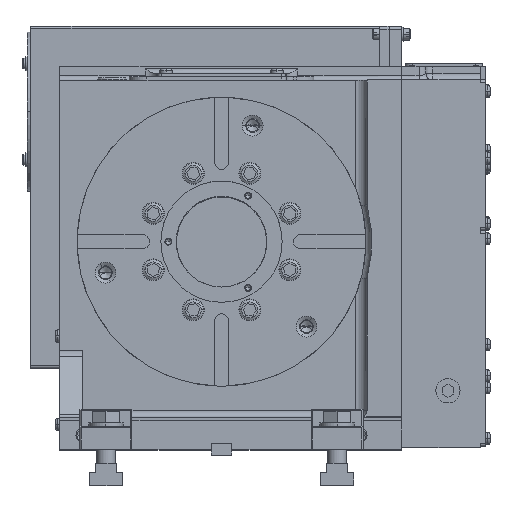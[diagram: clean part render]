
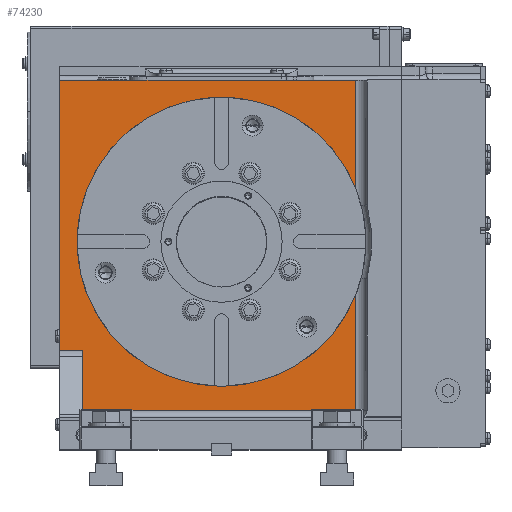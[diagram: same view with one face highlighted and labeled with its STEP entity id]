
A CAD part, top view. The second image highlights one B-rep face of the part: STEP entity #74230.
In plain terms, the highlighted planar face has unit normal (0, 0, 1) as drawn and (1, 0, 0) by its records, which use the part's own axes.
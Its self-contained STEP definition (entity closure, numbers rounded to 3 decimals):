
#1129 = VECTOR ( 'NONE', #110871, 1000. ) ;
#1500 = VECTOR ( 'NONE', #113606, 1000. ) ;
#4699 = EDGE_CURVE ( 'NONE', #69736, #19723, #97223, .T. ) ;
#5140 = CARTESIAN_POINT ( 'NONE',  ( 158., -146., -116. ) ) ;
#8170 = EDGE_CURVE ( 'NONE', #100000, #44124, #88858, .T. ) ;
#9696 = VECTOR ( 'NONE', #59174, 1000. ) ;
#10468 = EDGE_LOOP ( 'NONE', ( #62094, #57874 ) ) ;
#11766 = CARTESIAN_POINT ( 'NONE',  ( 158., -146., -116. ) ) ;
#12266 = CARTESIAN_POINT ( 'NONE',  ( 158., 0., 52.5 ) ) ;
#18388 = ORIENTED_EDGE ( 'NONE', *, *, #72162, .T. ) ;
#18440 = EDGE_CURVE ( 'NONE', #44124, #100000, #23325, .T. ) ;
#19105 = CARTESIAN_POINT ( 'NONE',  ( 158., -152., 120. ) ) ;
#19281 = DIRECTION ( 'NONE',  ( 0., 1., 0. ) ) ;
#19723 = VERTEX_POINT ( 'NONE', #105390 ) ;
#21317 = VERTEX_POINT ( 'NONE', #27211 ) ;
#21387 = FACE_OUTER_BOUND ( 'NONE', #30451, .T. ) ;
#21388 = CARTESIAN_POINT ( 'NONE',  ( 158., 0., 0. ) ) ;
#21521 = VERTEX_POINT ( 'NONE', #66740 ) ;
#21757 = VECTOR ( 'NONE', #19281, 1000. ) ;
#23325 = CIRCLE ( 'NONE', #99737, 52.5 ) ;
#26008 = VECTOR ( 'NONE', #37775, 1000. ) ;
#27211 = CARTESIAN_POINT ( 'NONE',  ( 158., 140., 140. ) ) ;
#28590 = ORIENTED_EDGE ( 'NONE', *, *, #78858, .F. ) ;
#28796 = CARTESIAN_POINT ( 'NONE',  ( 158., -152., 140. ) ) ;
#29163 = VECTOR ( 'NONE', #90740, 1000. ) ;
#29728 = ORIENTED_EDGE ( 'NONE', *, *, #83559, .T. ) ;
#30187 = DIRECTION ( 'NONE',  ( 0., 0., 1. ) ) ;
#30451 = EDGE_LOOP ( 'NONE', ( #29728, #57813, #87219, #18388, #69789, #39421, #28590, #62402 ) ) ;
#33152 = AXIS2_PLACEMENT_3D ( 'NONE', #21388, #82782, #30187 ) ;
#35815 = DIRECTION ( 'NONE',  ( 1., 0., 0. ) ) ;
#37607 = DIRECTION ( 'NONE',  ( -1., 0., 0. ) ) ;
#37775 = DIRECTION ( 'NONE',  ( 0., 0., -1. ) ) ;
#39421 = ORIENTED_EDGE ( 'NONE', *, *, #67168, .F. ) ;
#43749 = DIRECTION ( 'NONE',  ( 1., 0., 0. ) ) ;
#44124 = VERTEX_POINT ( 'NONE', #12266 ) ;
#44440 = VERTEX_POINT ( 'NONE', #86916 ) ;
#48249 = VERTEX_POINT ( 'NONE', #54424 ) ;
#48568 = VECTOR ( 'NONE', #54381, 1000. ) ;
#49357 = LINE ( 'NONE', #99154, #26008 ) ;
#50264 = CARTESIAN_POINT ( 'NONE',  ( 158., -152., 140. ) ) ;
#52802 = EDGE_CURVE ( 'NONE', #56153, #69736, #55262, .T. ) ;
#53176 = EDGE_CURVE ( 'NONE', #21521, #44440, #94807, .T. ) ;
#53507 = VERTEX_POINT ( 'NONE', #82963 ) ;
#54381 = DIRECTION ( 'NONE',  ( 0., -1., 0. ) ) ;
#54424 = CARTESIAN_POINT ( 'NONE',  ( 158., 140., -116. ) ) ;
#55262 = LINE ( 'NONE', #11766, #29163 ) ;
#56153 = VERTEX_POINT ( 'NONE', #112901 ) ;
#57813 = ORIENTED_EDGE ( 'NONE', *, *, #52802, .T. ) ;
#57874 = ORIENTED_EDGE ( 'NONE', *, *, #8170, .F. ) ;
#59174 = DIRECTION ( 'NONE',  ( 0., 1., 0. ) ) ;
#62094 = ORIENTED_EDGE ( 'NONE', *, *, #18440, .F. ) ;
#62402 = ORIENTED_EDGE ( 'NONE', *, *, #53176, .T. ) ;
#62946 = CARTESIAN_POINT ( 'NONE',  ( 158., 0., -52.5 ) ) ;
#63472 = AXIS2_PLACEMENT_3D ( 'NONE', #96289, #43749, #105175 ) ;
#66740 = CARTESIAN_POINT ( 'NONE',  ( 158., -93.895, 140. ) ) ;
#67168 = EDGE_CURVE ( 'NONE', #21317, #48249, #49357, .T. ) ;
#68441 = LINE ( 'NONE', #71813, #21757 ) ;
#68817 = CIRCLE ( 'NONE', #63472, 120. ) ;
#69736 = VERTEX_POINT ( 'NONE', #5140 ) ;
#69789 = ORIENTED_EDGE ( 'NONE', *, *, #101885, .T. ) ;
#71813 = CARTESIAN_POINT ( 'NONE',  ( 158., -152., -116. ) ) ;
#71970 = LINE ( 'NONE', #19105, #48568 ) ;
#72162 = EDGE_CURVE ( 'NONE', #19723, #53507, #68817, .T. ) ;
#74230 = ADVANCED_FACE ( 'NONE', ( #21387, #91369 ), #90161, .F. ) ;
#76857 = AXIS2_PLACEMENT_3D ( 'NONE', #28796, #37607, #98971 ) ;
#78858 = EDGE_CURVE ( 'NONE', #21521, #21317, #79703, .T. ) ;
#79703 = LINE ( 'NONE', #50264, #9696 ) ;
#82782 = DIRECTION ( 'NONE',  ( 1., 0., 0. ) ) ;
#82963 = CARTESIAN_POINT ( 'NONE',  ( 158., 30.725, -116. ) ) ;
#83559 = EDGE_CURVE ( 'NONE', #44440, #56153, #71970, .T. ) ;
#84415 = CARTESIAN_POINT ( 'NONE',  ( 158., -152., -116. ) ) ;
#86916 = CARTESIAN_POINT ( 'NONE',  ( 158., -93.895, 120. ) ) ;
#87219 = ORIENTED_EDGE ( 'NONE', *, *, #4699, .T. ) ;
#88364 = CARTESIAN_POINT ( 'NONE',  ( 158., 0., 0. ) ) ;
#88858 = CIRCLE ( 'NONE', #33152, 52.5 ) ;
#90161 = PLANE ( 'NONE',  #76857 ) ;
#90740 = DIRECTION ( 'NONE',  ( 0., 0., -1. ) ) ;
#91369 = FACE_BOUND ( 'NONE', #10468, .T. ) ;
#94807 = LINE ( 'NONE', #95977, #1500 ) ;
#95977 = CARTESIAN_POINT ( 'NONE',  ( 158., -93.895, 140. ) ) ;
#96289 = CARTESIAN_POINT ( 'NONE',  ( 158., 0., 0. ) ) ;
#97180 = DIRECTION ( 'NONE',  ( 0., 0., 1. ) ) ;
#97223 = LINE ( 'NONE', #84415, #1129 ) ;
#98971 = DIRECTION ( 'NONE',  ( 0., 0., 1. ) ) ;
#99154 = CARTESIAN_POINT ( 'NONE',  ( 158., 140., 140. ) ) ;
#99737 = AXIS2_PLACEMENT_3D ( 'NONE', #88364, #35815, #97180 ) ;
#100000 = VERTEX_POINT ( 'NONE', #62946 ) ;
#101885 = EDGE_CURVE ( 'NONE', #53507, #48249, #68441, .T. ) ;
#105175 = DIRECTION ( 'NONE',  ( 0., 0., 1. ) ) ;
#105390 = CARTESIAN_POINT ( 'NONE',  ( 158., -30.725, -116. ) ) ;
#110871 = DIRECTION ( 'NONE',  ( 0., 1., 0. ) ) ;
#112901 = CARTESIAN_POINT ( 'NONE',  ( 158., -146., 120. ) ) ;
#113606 = DIRECTION ( 'NONE',  ( 0., 0., -1. ) ) ;
